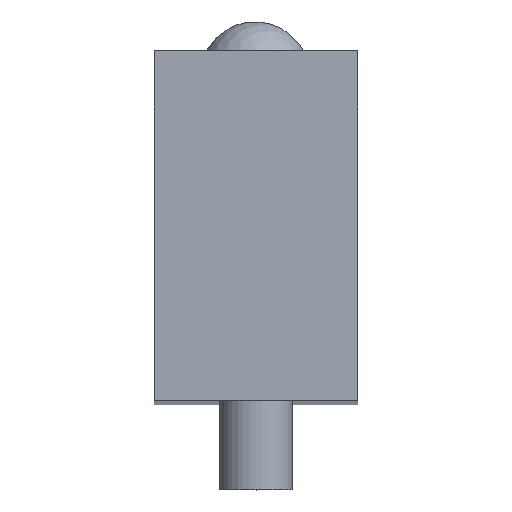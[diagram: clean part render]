
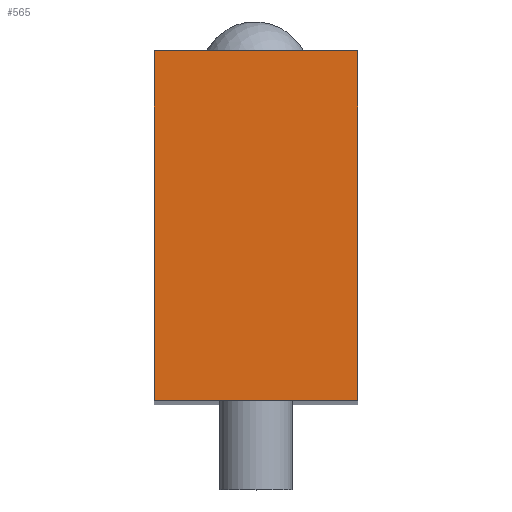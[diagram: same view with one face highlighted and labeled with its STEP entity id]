
A CAD part, top view. The second image highlights one B-rep face of the part: STEP entity #565.
In plain terms, the highlighted planar face has unit normal (0, 0, 1).
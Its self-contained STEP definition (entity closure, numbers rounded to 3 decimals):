
#36=LINE('',#955,#59);
#40=LINE('',#968,#63);
#47=LINE('',#989,#70);
#48=LINE('',#991,#71);
#59=VECTOR('',#801,10.);
#63=VECTOR('',#811,10.);
#70=VECTOR('',#836,10.);
#71=VECTOR('',#839,10.);
#135=FACE_OUTER_BOUND('',#188,.T.);
#188=EDGE_LOOP('',(#472,#473,#474,#475));
#268=VERTEX_POINT('',#952);
#269=VERTEX_POINT('',#954);
#274=VERTEX_POINT('',#965);
#275=VERTEX_POINT('',#967);
#327=EDGE_CURVE('',#269,#268,#36,.T.);
#333=EDGE_CURVE('',#275,#274,#40,.T.);
#344=EDGE_CURVE('',#268,#275,#47,.T.);
#345=EDGE_CURVE('',#274,#269,#48,.T.);
#472=ORIENTED_EDGE('',*,*,#333,.T.);
#473=ORIENTED_EDGE('',*,*,#345,.T.);
#474=ORIENTED_EDGE('',*,*,#327,.T.);
#475=ORIENTED_EDGE('',*,*,#344,.T.);
#492=PLANE('',#662);
#565=ADVANCED_FACE('',(#135),#492,.T.);
#662=AXIS2_PLACEMENT_3D('',#992,#840,#841);
#801=DIRECTION('',(-1.,0.,0.));
#811=DIRECTION('',(1.,0.,0.));
#836=DIRECTION('',(0.,-1.,0.));
#839=DIRECTION('',(0.,1.,0.));
#840=DIRECTION('center_axis',(0.,0.,1.));
#841=DIRECTION('ref_axis',(1.,0.,0.));
#952=CARTESIAN_POINT('',(-13.9,47.8,55.));
#954=CARTESIAN_POINT('',(13.9,47.8,55.));
#955=CARTESIAN_POINT('',(13.9,47.8,55.));
#965=CARTESIAN_POINT('',(13.9,0.,55.));
#967=CARTESIAN_POINT('',(-13.9,0.,55.));
#968=CARTESIAN_POINT('',(-13.9,0.,55.));
#989=CARTESIAN_POINT('',(-13.9,47.8,55.));
#991=CARTESIAN_POINT('',(13.9,0.,55.));
#992=CARTESIAN_POINT('Origin',(0.,23.9,55.));
